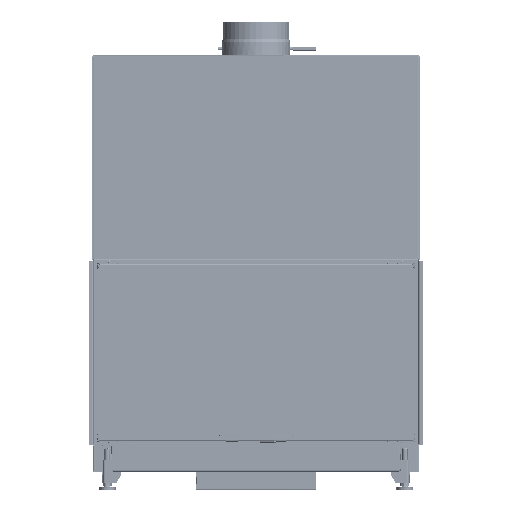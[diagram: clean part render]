
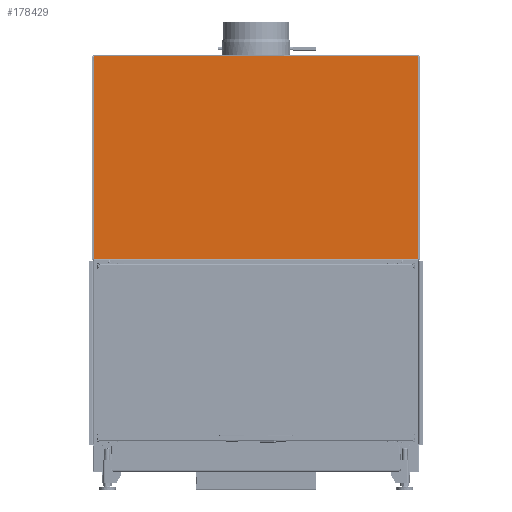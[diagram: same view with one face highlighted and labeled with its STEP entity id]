
A CAD part, front view. The second image highlights one B-rep face of the part: STEP entity #178429.
In plain terms, the highlighted planar face has unit normal (0, -1, 0).
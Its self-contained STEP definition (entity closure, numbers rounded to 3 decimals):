
#7953=FACE_OUTER_BOUND('',#17665,.T.);
#17665=EDGE_LOOP('',(#119997,#119998,#119999,#120000,#120001,#120002));
#36393=LINE('',#267521,#53963);
#36398=LINE('',#267609,#53968);
#36406=LINE('',#267828,#53976);
#36407=LINE('',#267830,#53977);
#36408=LINE('',#267834,#53978);
#36411=LINE('',#267840,#53981);
#53963=VECTOR('',#211473,10.);
#53968=VECTOR('',#211490,10.);
#53976=VECTOR('',#211512,10.);
#53977=VECTOR('',#211515,10.);
#53978=VECTOR('',#211522,10.);
#53981=VECTOR('',#211531,10.);
#71619=VERTEX_POINT('',#267502);
#71620=VERTEX_POINT('',#267513);
#71626=VERTEX_POINT('',#267602);
#71628=VERTEX_POINT('',#267608);
#71637=VERTEX_POINT('',#267819);
#71638=VERTEX_POINT('',#267826);
#89886=EDGE_CURVE('',#71620,#71619,#36393,.T.);
#89898=EDGE_CURVE('',#71628,#71619,#36398,.T.);
#89922=EDGE_CURVE('',#71637,#71638,#36406,.T.);
#89923=EDGE_CURVE('',#71626,#71628,#36407,.T.);
#89925=EDGE_CURVE('',#71638,#71626,#36408,.T.);
#89929=EDGE_CURVE('',#71620,#71637,#36411,.T.);
#119997=ORIENTED_EDGE('',*,*,#89923,.T.);
#119998=ORIENTED_EDGE('',*,*,#89898,.T.);
#119999=ORIENTED_EDGE('',*,*,#89886,.F.);
#120000=ORIENTED_EDGE('',*,*,#89929,.T.);
#120001=ORIENTED_EDGE('',*,*,#89922,.T.);
#120002=ORIENTED_EDGE('',*,*,#89925,.T.);
#167483=PLANE('',#189323);
#178429=ADVANCED_FACE('',(#7953),#167483,.T.);
#189323=AXIS2_PLACEMENT_3D('',#267839,#211529,#211530);
#211473=DIRECTION('',(1.,0.,0.));
#211490=DIRECTION('',(0.,0.,1.));
#211512=DIRECTION('',(0.,0.,-1.));
#211515=DIRECTION('',(0.,0.,1.));
#211522=DIRECTION('',(1.,0.,0.));
#211529=DIRECTION('center_axis',(0.,-1.,0.));
#211530=DIRECTION('ref_axis',(1.,0.,0.));
#211531=DIRECTION('',(0.,0.,-1.));
#267502=CARTESIAN_POINT('',(485.75,-328.496,1242.25));
#267513=CARTESIAN_POINT('',(-485.75,-328.496,1242.25));
#267521=CARTESIAN_POINT('',(0.,-328.496,1242.25));
#267602=CARTESIAN_POINT('',(485.75,-328.496,635.25));
#267608=CARTESIAN_POINT('',(485.75,-328.496,1241.57));
#267609=CARTESIAN_POINT('',(485.75,-328.496,808.846));
#267819=CARTESIAN_POINT('',(-485.75,-328.496,1241.57));
#267826=CARTESIAN_POINT('',(-485.75,-328.496,635.25));
#267828=CARTESIAN_POINT('',(-485.75,-328.496,1112.346));
#267830=CARTESIAN_POINT('',(485.75,-328.496,808.846));
#267834=CARTESIAN_POINT('',(244.25,-328.496,635.25));
#267839=CARTESIAN_POINT('Origin',(0.,-328.496,
982.441));
#267840=CARTESIAN_POINT('',(-485.75,-328.496,1112.346));
